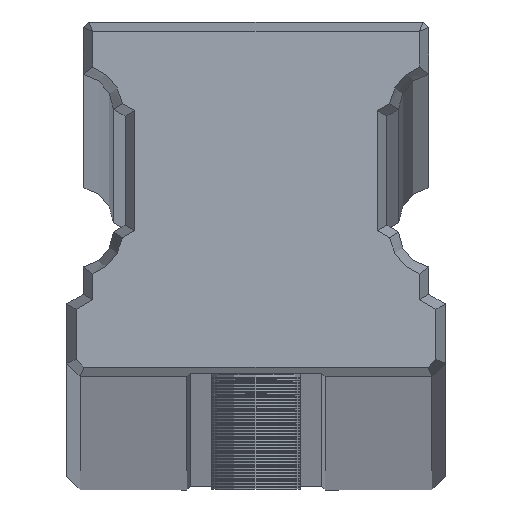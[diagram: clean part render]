
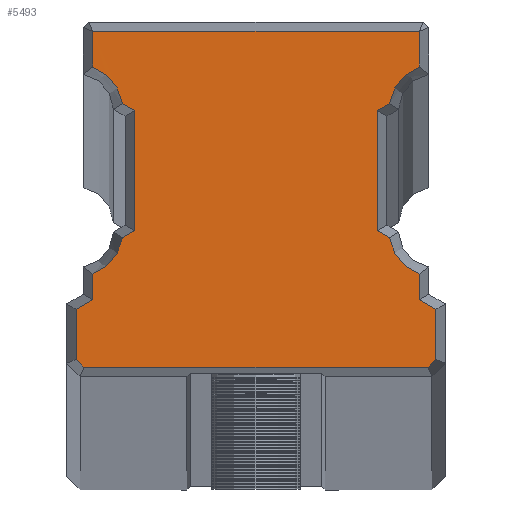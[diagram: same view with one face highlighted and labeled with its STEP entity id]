
A CAD part, top view. The second image highlights one B-rep face of the part: STEP entity #5493.
In plain terms, the highlighted planar face has unit normal (0, 0, 1).
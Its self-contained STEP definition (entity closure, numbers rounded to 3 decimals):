
#901=DIRECTION('',(1.,0.,0.));
#902=VECTOR('',#901,30.896);
#903=CARTESIAN_POINT('',(-15.448,0.85,0.));
#904=LINE('',#903,#902);
#905=DIRECTION('',(0.707,-0.707,0.));
#906=VECTOR('',#905,0.993);
#907=CARTESIAN_POINT('',(-16.15,1.552,0.));
#908=LINE('',#907,#906);
#909=DIRECTION('',(0.,-1.,0.));
#910=VECTOR('',#909,4.491);
#911=CARTESIAN_POINT('',(-16.15,6.043,0.));
#912=LINE('',#911,#910);
#913=DIRECTION('',(-0.866,-0.5,0.));
#914=VECTOR('',#913,1.732);
#915=CARTESIAN_POINT('',(-14.65,6.909,0.));
#916=LINE('',#915,#914);
#917=DIRECTION('',(0.,-1.,0.));
#918=VECTOR('',#917,2.292);
#919=CARTESIAN_POINT('',(-14.65,9.201,0.));
#920=LINE('',#919,#918);
#921=CARTESIAN_POINT('',(-16.046,13.046,0.));
#922=DIRECTION('',(0.,0.,-1.));
#923=DIRECTION('',(0.99,-0.139,0.));
#924=AXIS2_PLACEMENT_3D('',#921,#922,#923);
#926=DIRECTION('',(-0.866,-0.5,0.));
#927=VECTOR('',#926,1.265);
#928=CARTESIAN_POINT('',(-10.9,13.109,0.));
#929=LINE('',#928,#927);
#930=DIRECTION('',(0.,-1.,0.));
#931=VECTOR('',#930,10.782);
#932=CARTESIAN_POINT('',(-10.9,23.891,0.));
#933=LINE('',#932,#931);
#934=DIRECTION('',(0.866,-0.5,0.));
#935=VECTOR('',#934,1.265);
#936=CARTESIAN_POINT('',(-11.996,24.524,0.));
#937=LINE('',#936,#935);
#938=CARTESIAN_POINT('',(-16.046,23.954,0.));
#939=DIRECTION('',(0.,0.,-1.));
#940=DIRECTION('',(0.341,0.94,0.));
#941=AXIS2_PLACEMENT_3D('',#938,#939,#940);
#943=DIRECTION('',(0.,-1.,0.001));
#944=VECTOR('',#943,3.203);
#945=CARTESIAN_POINT('',(-14.651,31.001,
-0.002));
#946=LINE('',#945,#944);
#947=DIRECTION('',(-1.,0.,0.));
#948=VECTOR('',#947,29.303);
#949=CARTESIAN_POINT('',(14.651,31.001,-0.002));
#950=LINE('',#949,#948);
#951=DIRECTION('',(0.,1.,-0.001));
#952=VECTOR('',#951,3.203);
#953=CARTESIAN_POINT('',(14.65,27.799,0.));
#954=LINE('',#953,#952);
#955=CARTESIAN_POINT('',(16.046,23.954,0.));
#956=DIRECTION('',(0.,0.,-1.));
#957=DIRECTION('',(-0.99,0.139,0.));
#958=AXIS2_PLACEMENT_3D('',#955,#956,#957);
#960=DIRECTION('',(0.866,0.5,0.));
#961=VECTOR('',#960,1.265);
#962=CARTESIAN_POINT('',(10.9,23.891,0.));
#963=LINE('',#962,#961);
#964=DIRECTION('',(0.,1.,0.));
#965=VECTOR('',#964,10.782);
#966=CARTESIAN_POINT('',(10.9,13.109,0.));
#967=LINE('',#966,#965);
#968=DIRECTION('',(-0.866,0.5,0.));
#969=VECTOR('',#968,1.265);
#970=CARTESIAN_POINT('',(11.996,12.476,0.));
#971=LINE('',#970,#969);
#972=CARTESIAN_POINT('',(16.046,13.046,0.));
#973=DIRECTION('',(0.,0.,-1.));
#974=DIRECTION('',(-0.341,-0.94,0.));
#975=AXIS2_PLACEMENT_3D('',#972,#973,#974);
#977=DIRECTION('',(0.,1.,0.));
#978=VECTOR('',#977,2.292);
#979=CARTESIAN_POINT('',(14.65,6.909,0.));
#980=LINE('',#979,#978);
#981=DIRECTION('',(-0.866,0.5,0.));
#982=VECTOR('',#981,1.732);
#983=CARTESIAN_POINT('',(16.15,6.043,0.));
#984=LINE('',#983,#982);
#985=DIRECTION('',(0.,1.,0.));
#986=VECTOR('',#985,4.491);
#987=CARTESIAN_POINT('',(16.15,1.552,0.));
#988=LINE('',#987,#986);
#989=DIRECTION('',(0.707,0.707,0.));
#990=VECTOR('',#989,0.993);
#991=CARTESIAN_POINT('',(15.448,0.85,0.));
#992=LINE('',#991,#990);
#3845=CARTESIAN_POINT('',(-15.448,0.85,0.));
#3846=CARTESIAN_POINT('',(15.448,0.85,0.));
#3847=VERTEX_POINT('',#3845);
#3848=VERTEX_POINT('',#3846);
#3849=CARTESIAN_POINT('',(16.15,1.552,0.));
#3850=VERTEX_POINT('',#3849);
#3851=CARTESIAN_POINT('',(16.15,6.043,0.));
#3852=VERTEX_POINT('',#3851);
#3853=CARTESIAN_POINT('',(14.65,6.909,0.));
#3854=VERTEX_POINT('',#3853);
#3855=CARTESIAN_POINT('',(14.65,9.201,0.));
#3856=VERTEX_POINT('',#3855);
#3857=CARTESIAN_POINT('',(11.996,12.476,0.));
#3858=VERTEX_POINT('',#3857);
#3859=CARTESIAN_POINT('',(10.9,13.109,0.));
#3860=VERTEX_POINT('',#3859);
#3861=CARTESIAN_POINT('',(10.9,23.891,0.));
#3862=VERTEX_POINT('',#3861);
#3863=CARTESIAN_POINT('',(11.996,24.524,0.));
#3864=VERTEX_POINT('',#3863);
#3865=CARTESIAN_POINT('',(14.65,27.799,0.));
#3866=VERTEX_POINT('',#3865);
#3867=CARTESIAN_POINT('',(14.651,31.001,
-0.002));
#3868=VERTEX_POINT('',#3867);
#3869=CARTESIAN_POINT('',(-14.651,31.001,
-0.002));
#3870=VERTEX_POINT('',#3869);
#3871=CARTESIAN_POINT('',(-14.65,27.799,0.));
#3872=VERTEX_POINT('',#3871);
#3873=CARTESIAN_POINT('',(-11.996,24.524,0.));
#3874=VERTEX_POINT('',#3873);
#3875=CARTESIAN_POINT('',(-10.9,23.891,0.));
#3876=VERTEX_POINT('',#3875);
#3877=CARTESIAN_POINT('',(-10.9,13.109,0.));
#3878=VERTEX_POINT('',#3877);
#3879=CARTESIAN_POINT('',(-11.996,12.476,0.));
#3880=VERTEX_POINT('',#3879);
#3881=CARTESIAN_POINT('',(-14.65,9.201,0.));
#3882=VERTEX_POINT('',#3881);
#3883=CARTESIAN_POINT('',(-14.65,6.909,0.));
#3884=VERTEX_POINT('',#3883);
#3885=CARTESIAN_POINT('',(-16.15,6.043,0.));
#3886=VERTEX_POINT('',#3885);
#3887=CARTESIAN_POINT('',(-16.15,1.552,0.));
#3888=VERTEX_POINT('',#3887);
#5443=CARTESIAN_POINT('',(0.,0.,0.));
#5444=DIRECTION('',(0.,0.,1.));
#5445=DIRECTION('',(1.,0.,0.));
#5446=AXIS2_PLACEMENT_3D('',#5443,#5444,#5445);
#5447=PLANE('',#5446);
#5449=ORIENTED_EDGE('',*,*,#5448,.F.);
#5451=ORIENTED_EDGE('',*,*,#5450,.F.);
#5453=ORIENTED_EDGE('',*,*,#5452,.F.);
#5455=ORIENTED_EDGE('',*,*,#5454,.F.);
#5457=ORIENTED_EDGE('',*,*,#5456,.F.);
#5459=ORIENTED_EDGE('',*,*,#5458,.F.);
#5461=ORIENTED_EDGE('',*,*,#5460,.F.);
#5463=ORIENTED_EDGE('',*,*,#5462,.F.);
#5465=ORIENTED_EDGE('',*,*,#5464,.F.);
#5467=ORIENTED_EDGE('',*,*,#5466,.F.);
#5468=ORIENTED_EDGE('',*,*,#5433,.F.);
#5470=ORIENTED_EDGE('',*,*,#5469,.F.);
#5472=ORIENTED_EDGE('',*,*,#5471,.F.);
#5474=ORIENTED_EDGE('',*,*,#5473,.F.);
#5476=ORIENTED_EDGE('',*,*,#5475,.F.);
#5478=ORIENTED_EDGE('',*,*,#5477,.F.);
#5480=ORIENTED_EDGE('',*,*,#5479,.F.);
#5482=ORIENTED_EDGE('',*,*,#5481,.F.);
#5484=ORIENTED_EDGE('',*,*,#5483,.F.);
#5486=ORIENTED_EDGE('',*,*,#5485,.F.);
#5488=ORIENTED_EDGE('',*,*,#5487,.F.);
#5490=ORIENTED_EDGE('',*,*,#5489,.F.);
#5491=EDGE_LOOP('',(#5449,#5451,#5453,#5455,#5457,#5459,#5461,#5463,#5465,#5467,
#5468,#5470,#5472,#5474,#5476,#5478,#5480,#5482,#5484,#5486,#5488,#5490));
#5492=FACE_OUTER_BOUND('',#5491,.F.);
#925=CIRCLE('',#924,4.09);
#942=CIRCLE('',#941,4.09);
#959=CIRCLE('',#958,4.09);
#976=CIRCLE('',#975,4.09);
#5433=EDGE_CURVE('',#3870,#3872,#946,.T.);
#5448=EDGE_CURVE('',#3847,#3848,#904,.T.);
#5450=EDGE_CURVE('',#3888,#3847,#908,.T.);
#5452=EDGE_CURVE('',#3886,#3888,#912,.T.);
#5454=EDGE_CURVE('',#3884,#3886,#916,.T.);
#5456=EDGE_CURVE('',#3882,#3884,#920,.T.);
#5458=EDGE_CURVE('',#3880,#3882,#925,.T.);
#5460=EDGE_CURVE('',#3878,#3880,#929,.T.);
#5462=EDGE_CURVE('',#3876,#3878,#933,.T.);
#5464=EDGE_CURVE('',#3874,#3876,#937,.T.);
#5466=EDGE_CURVE('',#3872,#3874,#942,.T.);
#5469=EDGE_CURVE('',#3868,#3870,#950,.T.);
#5471=EDGE_CURVE('',#3866,#3868,#954,.T.);
#5473=EDGE_CURVE('',#3864,#3866,#959,.T.);
#5475=EDGE_CURVE('',#3862,#3864,#963,.T.);
#5477=EDGE_CURVE('',#3860,#3862,#967,.T.);
#5479=EDGE_CURVE('',#3858,#3860,#971,.T.);
#5481=EDGE_CURVE('',#3856,#3858,#976,.T.);
#5483=EDGE_CURVE('',#3854,#3856,#980,.T.);
#5485=EDGE_CURVE('',#3852,#3854,#984,.T.);
#5487=EDGE_CURVE('',#3850,#3852,#988,.T.);
#5489=EDGE_CURVE('',#3848,#3850,#992,.T.);
#5493=ADVANCED_FACE('',(#5492),#5447,.T.);
